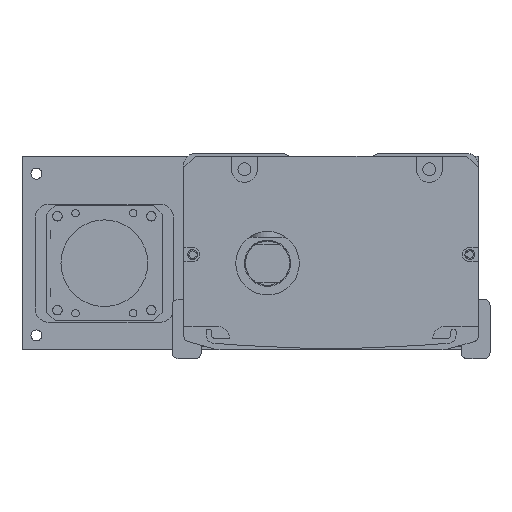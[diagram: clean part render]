
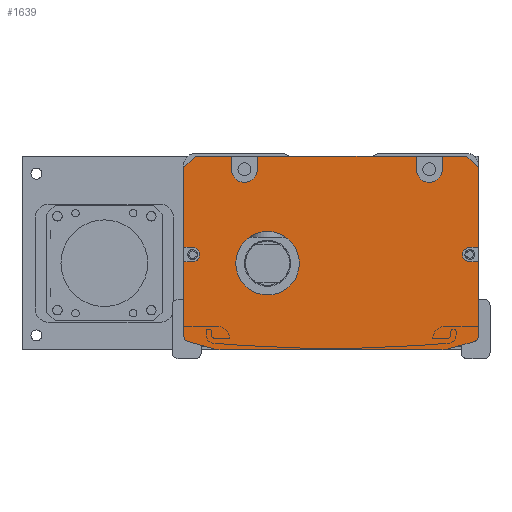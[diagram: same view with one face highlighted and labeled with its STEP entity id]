
A CAD part, front view. The second image highlights one B-rep face of the part: STEP entity #1639.
In plain terms, the highlighted planar face has unit normal (0, -1, 0).
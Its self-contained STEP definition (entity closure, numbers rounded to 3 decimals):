
#1639=ADVANCED_FACE('',(#4320,#4321),#2325,.F.);
#2325=PLANE('',#13699);
#2626=LINE('',#19072,#3429);
#2630=LINE('',#19080,#3433);
#2640=LINE('',#19101,#3443);
#2644=LINE('',#19109,#3447);
#2913=LINE('',#20102,#3716);
#2914=LINE('',#20104,#3717);
#2915=LINE('',#20106,#3718);
#2916=LINE('',#20110,#3719);
#2917=LINE('',#20112,#3720);
#2918=LINE('',#20114,#3721);
#2919=LINE('',#20118,#3722);
#2920=LINE('',#20120,#3723);
#2921=LINE('',#20122,#3724);
#2922=LINE('',#20123,#3725);
#2923=LINE('',#20127,#3726);
#2924=LINE('',#20130,#3727);
#2925=LINE('',#20134,#3728);
#2926=LINE('',#20138,#3729);
#2927=LINE('',#20141,#3730);
#2928=LINE('',#20145,#3731);
#3429=VECTOR('',#14969,1.);
#3433=VECTOR('',#14973,1.);
#3443=VECTOR('',#14985,1.);
#3447=VECTOR('',#14989,1.);
#3716=VECTOR('',#16054,1.);
#3717=VECTOR('',#16055,1.);
#3718=VECTOR('',#16056,1.);
#3719=VECTOR('',#16059,1.);
#3720=VECTOR('',#16060,1.);
#3721=VECTOR('',#16061,1.);
#3722=VECTOR('',#16064,1.);
#3723=VECTOR('',#16065,1.);
#3724=VECTOR('',#16066,1.);
#3725=VECTOR('',#16067,1.);
#3726=VECTOR('',#16070,1.);
#3727=VECTOR('',#16073,1.);
#3728=VECTOR('',#16076,1.);
#3729=VECTOR('',#16079,1.);
#3730=VECTOR('',#16082,1.);
#3731=VECTOR('',#16085,1.);
#4320=FACE_BOUND('',#5044,.T.);
#4321=FACE_BOUND('',#5045,.T.);
#5044=EDGE_LOOP('',(#6948,#6949,#6950,#6951,#6952,#6953,#6954,#6955,#6956,
#6957,#6958,#6959,#6960,#6961,#6962,#6963,#6964,#6965,#6966,#6967,#6968,
#6969,#6970,#6971,#6972,#6973,#6974,#6975));
#5045=EDGE_LOOP('',(#6976));
#6948=ORIENTED_EDGE('',*,*,#10872,.T.);
#6949=ORIENTED_EDGE('',*,*,#11356,.T.);
#6950=ORIENTED_EDGE('',*,*,#11357,.T.);
#6951=ORIENTED_EDGE('',*,*,#11358,.F.);
#6952=ORIENTED_EDGE('',*,*,#11359,.T.);
#6953=ORIENTED_EDGE('',*,*,#11360,.F.);
#6954=ORIENTED_EDGE('',*,*,#11361,.T.);
#6955=ORIENTED_EDGE('',*,*,#11362,.F.);
#6956=ORIENTED_EDGE('',*,*,#11363,.T.);
#6957=ORIENTED_EDGE('',*,*,#11364,.F.);
#6958=ORIENTED_EDGE('',*,*,#11365,.T.);
#6959=ORIENTED_EDGE('',*,*,#11366,.T.);
#6960=ORIENTED_EDGE('',*,*,#10890,.T.);
#6961=ORIENTED_EDGE('',*,*,#11367,.T.);
#6962=ORIENTED_EDGE('',*,*,#11368,.T.);
#6963=ORIENTED_EDGE('',*,*,#11369,.T.);
#6964=ORIENTED_EDGE('',*,*,#10886,.T.);
#6965=ORIENTED_EDGE('',*,*,#11370,.T.);
#6966=ORIENTED_EDGE('',*,*,#11371,.T.);
#6967=ORIENTED_EDGE('',*,*,#11372,.T.);
#6968=ORIENTED_EDGE('',*,*,#11373,.T.);
#6969=ORIENTED_EDGE('',*,*,#11374,.T.);
#6970=ORIENTED_EDGE('',*,*,#11375,.T.);
#6971=ORIENTED_EDGE('',*,*,#11376,.T.);
#6972=ORIENTED_EDGE('',*,*,#10876,.T.);
#6973=ORIENTED_EDGE('',*,*,#11377,.T.);
#6974=ORIENTED_EDGE('',*,*,#11378,.T.);
#6975=ORIENTED_EDGE('',*,*,#11379,.T.);
#6976=ORIENTED_EDGE('',*,*,#11380,.T.);
#9581=VERTEX_POINT('',#19071);
#9582=VERTEX_POINT('',#19073);
#9585=VERTEX_POINT('',#19079);
#9586=VERTEX_POINT('',#19081);
#9595=VERTEX_POINT('',#19100);
#9596=VERTEX_POINT('',#19102);
#9599=VERTEX_POINT('',#19108);
#9600=VERTEX_POINT('',#19110);
#9926=VERTEX_POINT('',#20103);
#9927=VERTEX_POINT('',#20105);
#9928=VERTEX_POINT('',#20107);
#9929=VERTEX_POINT('',#20109);
#9930=VERTEX_POINT('',#20111);
#9931=VERTEX_POINT('',#20113);
#9932=VERTEX_POINT('',#20115);
#9933=VERTEX_POINT('',#20117);
#9934=VERTEX_POINT('',#20119);
#9935=VERTEX_POINT('',#20121);
#9936=VERTEX_POINT('',#20124);
#9937=VERTEX_POINT('',#20126);
#9938=VERTEX_POINT('',#20129);
#9939=VERTEX_POINT('',#20131);
#9940=VERTEX_POINT('',#20133);
#9941=VERTEX_POINT('',#20135);
#9942=VERTEX_POINT('',#20137);
#9943=VERTEX_POINT('',#20139);
#9944=VERTEX_POINT('',#20142);
#9945=VERTEX_POINT('',#20144);
#9946=VERTEX_POINT('',#20147);
#10872=EDGE_CURVE('',#9582,#9581,#2626,.T.);
#10876=EDGE_CURVE('',#9586,#9585,#2630,.T.);
#10886=EDGE_CURVE('',#9596,#9595,#2640,.T.);
#10890=EDGE_CURVE('',#9600,#9599,#2644,.T.);
#11356=EDGE_CURVE('',#9581,#9926,#2913,.T.);
#11357=EDGE_CURVE('',#9926,#9927,#2914,.T.);
#11358=EDGE_CURVE('',#9928,#9927,#2915,.T.);
#11359=EDGE_CURVE('',#9928,#9929,#12760,.T.);
#11360=EDGE_CURVE('',#9930,#9929,#2916,.T.);
#11361=EDGE_CURVE('',#9930,#9931,#2917,.T.);
#11362=EDGE_CURVE('',#9932,#9931,#2918,.T.);
#11363=EDGE_CURVE('',#9932,#9933,#12761,.T.);
#11364=EDGE_CURVE('',#9934,#9933,#2919,.T.);
#11365=EDGE_CURVE('',#9934,#9935,#2920,.T.);
#11366=EDGE_CURVE('',#9935,#9600,#2921,.T.);
#11367=EDGE_CURVE('',#9599,#9936,#2922,.T.);
#11368=EDGE_CURVE('',#9936,#9937,#12762,.T.);
#11369=EDGE_CURVE('',#9937,#9596,#2923,.T.);
#11370=EDGE_CURVE('',#9595,#9938,#12763,.T.);
#11371=EDGE_CURVE('',#9938,#9939,#2924,.T.);
#11372=EDGE_CURVE('',#9939,#9940,#12764,.T.);
#11373=EDGE_CURVE('',#9940,#9941,#2925,.T.);
#11374=EDGE_CURVE('',#9941,#9942,#12765,.T.);
#11375=EDGE_CURVE('',#9942,#9943,#2926,.T.);
#11376=EDGE_CURVE('',#9943,#9586,#12766,.T.);
#11377=EDGE_CURVE('',#9585,#9944,#2927,.T.);
#11378=EDGE_CURVE('',#9944,#9945,#12767,.T.);
#11379=EDGE_CURVE('',#9945,#9582,#2928,.T.);
#11380=EDGE_CURVE('',#9946,#9946,#12768,.T.);
#12760=CIRCLE('',#13690,4.5);
#12761=CIRCLE('',#13691,4.5);
#12762=CIRCLE('',#13692,2.5);
#12763=CIRCLE('',#13693,2.);
#12764=CIRCLE('',#13694,10.);
#12765=CIRCLE('',#13695,10.);
#12766=CIRCLE('',#13696,2.);
#12767=CIRCLE('',#13697,2.5);
#12768=CIRCLE('',#13698,11.);
#13690=AXIS2_PLACEMENT_3D('',#20108,#16057,#16058);
#13691=AXIS2_PLACEMENT_3D('',#20116,#16062,#16063);
#13692=AXIS2_PLACEMENT_3D('',#20125,#16068,#16069);
#13693=AXIS2_PLACEMENT_3D('',#20128,#16071,#16072);
#13694=AXIS2_PLACEMENT_3D('',#20132,#16074,#16075);
#13695=AXIS2_PLACEMENT_3D('',#20136,#16077,#16078);
#13696=AXIS2_PLACEMENT_3D('',#20140,#16080,#16081);
#13697=AXIS2_PLACEMENT_3D('',#20143,#16083,#16084);
#13698=AXIS2_PLACEMENT_3D('',#20146,#16086,#16087);
#13699=AXIS2_PLACEMENT_3D('',#20148,#16088,#16089);
#14969=DIRECTION('',(0.,0.,1.));
#14973=DIRECTION('',(0.,0.,1.));
#14985=DIRECTION('',(0.,0.,-1.));
#14989=DIRECTION('',(0.,0.,-1.));
#16054=DIRECTION('',(-0.707,0.,0.707));
#16055=DIRECTION('',(-1.,0.,0.));
#16056=DIRECTION('',(0.,0.,1.));
#16057=DIRECTION('',(0.,1.,0.));
#16058=DIRECTION('',(0.,0.,1.));
#16059=DIRECTION('',(0.,0.,-1.));
#16060=DIRECTION('',(-1.,0.,0.));
#16061=DIRECTION('',(0.,0.,1.));
#16062=DIRECTION('',(0.,1.,0.));
#16063=DIRECTION('',(0.,0.,1.));
#16064=DIRECTION('',(0.,0.,-1.));
#16065=DIRECTION('',(-1.,0.,0.));
#16066=DIRECTION('',(-0.707,0.,-0.707));
#16067=DIRECTION('',(1.,0.,0.));
#16068=DIRECTION('',(0.,1.,0.));
#16069=DIRECTION('',(0.,0.,1.));
#16070=DIRECTION('',(-1.,0.,0.));
#16071=DIRECTION('',(0.,-1.,0.));
#16072=DIRECTION('',(0.,0.,1.));
#16073=DIRECTION('',(0.963,0.,-0.269));
#16074=DIRECTION('',(0.,-1.,0.));
#16075=DIRECTION('',(0.,0.,1.));
#16076=DIRECTION('',(1.,0.,0.));
#16077=DIRECTION('',(0.,-1.,0.));
#16078=DIRECTION('',(0.,0.,-1.));
#16079=DIRECTION('',(0.963,0.,0.269));
#16080=DIRECTION('',(0.,-1.,0.));
#16081=DIRECTION('',(0.,0.,-1.));
#16082=DIRECTION('',(-1.,0.,0.));
#16083=DIRECTION('',(0.,1.,0.));
#16084=DIRECTION('',(0.,0.,1.));
#16085=DIRECTION('',(1.,0.,0.));
#16086=DIRECTION('',(0.,1.,0.));
#16087=DIRECTION('',(0.,0.,1.));
#16088=DIRECTION('',(0.,1.,0.));
#16089=DIRECTION('',(1.,0.,0.));
#19071=CARTESIAN_POINT('',(47.808,-367.5,-5.));
#19072=CARTESIAN_POINT('',(47.808,-367.5,-1.));
#19073=CARTESIAN_POINT('',(47.808,-367.5,-32.5));
#19079=CARTESIAN_POINT('',(47.808,-367.5,-37.5));
#19080=CARTESIAN_POINT('',(47.808,-367.5,-1.));
#19081=CARTESIAN_POINT('',(47.808,-367.5,-63.212));
#19100=CARTESIAN_POINT('',(-54.192,-367.5,-63.212));
#19101=CARTESIAN_POINT('',(-54.192,-367.5,-62.));
#19102=CARTESIAN_POINT('',(-54.192,-367.5,-37.5));
#19108=CARTESIAN_POINT('',(-54.192,-367.5,-32.5));
#19109=CARTESIAN_POINT('',(-54.192,-367.5,-62.));
#19110=CARTESIAN_POINT('',(-54.192,-367.5,-5.));
#20102=CARTESIAN_POINT('',(43.808,-367.5,-1.));
#20103=CARTESIAN_POINT('',(43.808,-367.5,-1.));
#20104=CARTESIAN_POINT('',(-3.192,-367.5,-1.));
#20105=CARTESIAN_POINT('',(35.308,-367.5,-1.));
#20106=CARTESIAN_POINT('',(35.308,-367.5,-1.));
#20107=CARTESIAN_POINT('',(35.308,-367.5,-5.5));
#20108=CARTESIAN_POINT('',(30.808,-367.5,-5.5));
#20109=CARTESIAN_POINT('',(26.308,-367.5,-5.5));
#20110=CARTESIAN_POINT('',(26.308,-367.5,-1.));
#20111=CARTESIAN_POINT('',(26.308,-367.5,-1.));
#20112=CARTESIAN_POINT('',(-54.192,-367.5,-1.));
#20113=CARTESIAN_POINT('',(-28.692,-367.5,-1.));
#20114=CARTESIAN_POINT('',(-28.692,-367.5,-3.5));
#20115=CARTESIAN_POINT('',(-28.692,-367.5,-5.5));
#20116=CARTESIAN_POINT('',(-33.192,-367.5,-5.5));
#20117=CARTESIAN_POINT('',(-37.692,-367.5,-5.5));
#20118=CARTESIAN_POINT('',(-37.692,-367.5,-1.));
#20119=CARTESIAN_POINT('',(-37.692,-367.5,-1.));
#20120=CARTESIAN_POINT('',(-54.192,-367.5,-1.));
#20121=CARTESIAN_POINT('',(-50.192,-367.5,-1.));
#20122=CARTESIAN_POINT('',(-54.192,-367.5,-5.));
#20123=CARTESIAN_POINT('',(-3.192,-367.5,-32.5));
#20124=CARTESIAN_POINT('',(-51.192,-367.5,-32.5));
#20125=CARTESIAN_POINT('',(-51.192,-367.5,-35.));
#20126=CARTESIAN_POINT('',(-51.192,-367.5,-37.5));
#20127=CARTESIAN_POINT('',(-3.192,-367.5,-37.5));
#20128=CARTESIAN_POINT('',(-52.192,-367.5,-63.212));
#20129=CARTESIAN_POINT('',(-52.731,-367.5,-65.138));
#20130=CARTESIAN_POINT('',(-55.807,-367.5,-64.279));
#20131=CARTESIAN_POINT('',(-43.809,-367.5,-67.631));
#20132=CARTESIAN_POINT('',(-41.118,-367.5,-58.));
#20133=CARTESIAN_POINT('',(-41.118,-367.5,-68.));
#20134=CARTESIAN_POINT('',(-54.692,-367.5,-68.));
#20135=CARTESIAN_POINT('',(34.733,-367.5,-68.));
#20136=CARTESIAN_POINT('',(34.733,-367.5,-58.));
#20137=CARTESIAN_POINT('',(37.424,-367.5,-67.631));
#20138=CARTESIAN_POINT('',(49.422,-367.5,-64.279));
#20139=CARTESIAN_POINT('',(46.346,-367.5,-65.138));
#20140=CARTESIAN_POINT('',(45.808,-367.5,-63.212));
#20141=CARTESIAN_POINT('',(-3.192,-367.5,-37.5));
#20142=CARTESIAN_POINT('',(44.808,-367.5,-37.5));
#20143=CARTESIAN_POINT('',(44.808,-367.5,-35.));
#20144=CARTESIAN_POINT('',(44.808,-367.5,-32.5));
#20145=CARTESIAN_POINT('',(-3.192,-367.5,-32.5));
#20146=CARTESIAN_POINT('',(-25.192,-367.5,-38.));
#20147=CARTESIAN_POINT('',(-25.192,-367.5,-27.));
#20148=CARTESIAN_POINT('',(-3.192,-367.5,-1.));
